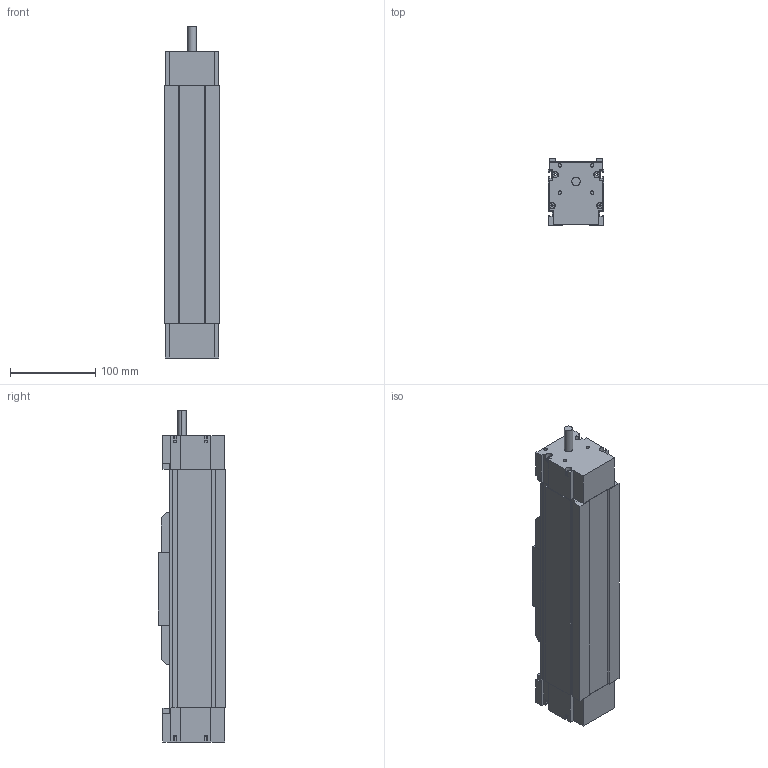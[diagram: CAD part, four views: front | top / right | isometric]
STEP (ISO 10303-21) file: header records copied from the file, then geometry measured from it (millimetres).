
FILE_DESCRIPTION (( 'STEP AP203' ), '1' );
FILE_NAME ('MSX65B-60-LL1610-P7.STEP', '2013-11-02T02:54:31', ( '微软用户' ), ( '微软中国' ), 'SwSTEP 2.0', 'SolidWorks 2010', '' );
FILE_SCHEMA (( 'CONFIG_CONTROL_DESIGN' ));
Length unit declared in the file: millimetre
Products named in the file (1): MSX65B-60-LL1610-P7
Bounding box: 65 x 79 x 390 mm (x, y, z)
Volume: 1535201.6 mm3; surface area: 204910 mm2
Topology: 2 solids, 2 shells, 405 faces, 1036 edges, 638 vertices
Faces by surface type: plane 319, cylinder 66, cone 20
Entity records: 12073 total; most frequent: DIRECTION 2080, CARTESIAN_POINT 2068, ORIENTED_EDGE 2048, EDGE_CURVE 1024, VECTOR 780, LINE 780, AXIS2_PLACEMENT_3D 650, VERTEX_POINT 638
